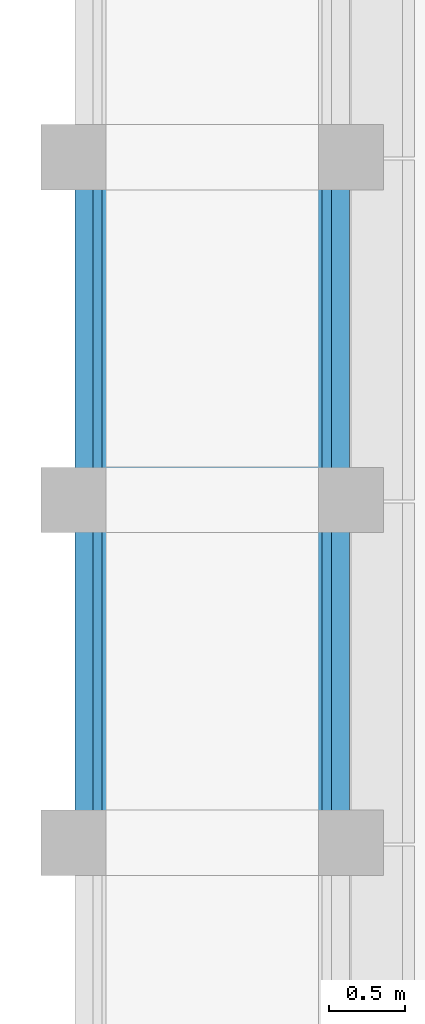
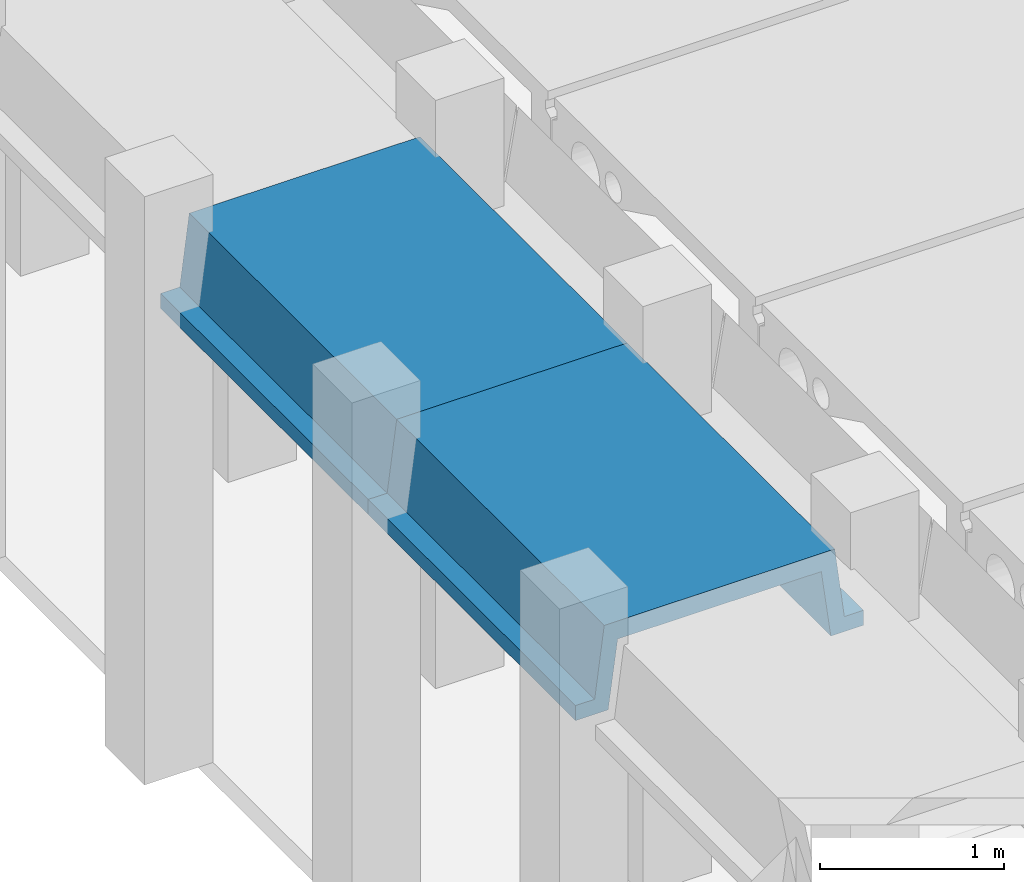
# One storey, part 11 of 21: 2 beams.
"""IFC2X3 building model written with IfcOpenShell, lengths in millimetres."""

from ifc_helpers import new_model, entity, si_unit, converted_unit, derived_unit, direction, frame, origin, place, context, subcontext, project, spatial, polyline, outline, extrude, material, type_object, element, save


model = new_model("IFC2X3")

# Units and contexts
model_context = context("Model", 3, precision=0.01, world=origin(), true_north=direction((6.12303176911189e-17, 1.0)))
body_context = subcontext(model_context, "Body", "Model", "MODEL_VIEW")
ifc_project = project(units=[si_unit("LENGTHUNIT", "METRE", prefix="MILLI"), si_unit("AREAUNIT", "SQUARE_METRE"), si_unit("VOLUMEUNIT", "CUBIC_METRE"), converted_unit("PLANEANGLEUNIT", "DEGREE", entity("IfcRatioMeasure", 0.0174532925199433), si_unit("PLANEANGLEUNIT", "RADIAN"), dimensions=[0, 0, 0, 0, 0, 0, 0]), si_unit("MASSUNIT", "GRAM", prefix="KILO"), derived_unit("MASSDENSITYUNIT", [(si_unit("MASSUNIT", "GRAM", prefix="KILO"), 1), (si_unit("LENGTHUNIT", "METRE"), -3)]), derived_unit("MOMENTOFINERTIAUNIT", [(si_unit("LENGTHUNIT", "METRE"), 4)]), si_unit("TIMEUNIT", "SECOND"), si_unit("FREQUENCYUNIT", "HERTZ"), si_unit("THERMODYNAMICTEMPERATUREUNIT", "DEGREE_CELSIUS"), derived_unit("THERMALTRANSMITTANCEUNIT", [(si_unit("MASSUNIT", "GRAM", prefix="KILO"), 1), (si_unit("THERMODYNAMICTEMPERATUREUNIT", "KELVIN"), -1), (si_unit("TIMEUNIT", "SECOND"), -3)]), derived_unit("VOLUMETRICFLOWRATEUNIT", [(si_unit("LENGTHUNIT", "METRE"), 3), (si_unit("TIMEUNIT", "SECOND"), -1)]), si_unit("ELECTRICCURRENTUNIT", "AMPERE"), si_unit("ELECTRICVOLTAGEUNIT", "VOLT"), si_unit("POWERUNIT", "WATT"), si_unit("FORCEUNIT", "NEWTON", prefix="KILO"), si_unit("ILLUMINANCEUNIT", "LUX"), si_unit("LUMINOUSFLUXUNIT", "LUMEN"), si_unit("LUMINOUSINTENSITYUNIT", "CANDELA"), derived_unit("USERDEFINED", [(si_unit("MASSUNIT", "GRAM", prefix="KILO"), -1), (si_unit("LENGTHUNIT", "METRE"), -2), (si_unit("TIMEUNIT", "SECOND"), 3), (si_unit("LUMINOUSFLUXUNIT", "LUMEN"), 1)]), derived_unit("LINEARVELOCITYUNIT", [(si_unit("LENGTHUNIT", "METRE"), 1), (si_unit("TIMEUNIT", "SECOND"), -1)]), si_unit("PRESSUREUNIT", "PASCAL"), derived_unit("USERDEFINED", [(si_unit("LENGTHUNIT", "METRE"), -2), (si_unit("MASSUNIT", "GRAM", prefix="KILO"), 1), (si_unit("TIMEUNIT", "SECOND"), -2)]), derived_unit("LINEARFORCEUNIT", [(si_unit("MASSUNIT", "GRAM", prefix="KILO"), 1), (si_unit("LENGTHUNIT", "METRE"), 1), (si_unit("TIMEUNIT", "SECOND"), -2), (si_unit("LENGTHUNIT", "METRE"), -1)]), derived_unit("PLANARFORCEUNIT", [(si_unit("MASSUNIT", "GRAM", prefix="KILO"), 1), (si_unit("LENGTHUNIT", "METRE"), 1), (si_unit("TIMEUNIT", "SECOND"), -2), (si_unit("LENGTHUNIT", "METRE"), -2)])], contexts=[model_context])

# Site, building, storey
site_placement = place(None, frame((10627.5135316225, 21939.0796949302, 0.0)))
site = spatial("IfcSite", under=ifc_project, at=site_placement, Name="Default", CompositionType="ELEMENT")
building_placement = place(site_placement, origin())
building = spatial("IfcBuilding", under=site, at=building_placement, CompositionType="ELEMENT")
storey_placement = place(building_placement, frame((0.0, 0.0, 7320.0)))
storey = spatial("IfcBuildingStorey", under=building, at=storey_placement, Name="R+2", CompositionType="ELEMENT", Elevation=7320.0)

# Beams
ifc_material = material(Name="Concrete, Precast Smooth, Light Grey")
beam_type = type_object("IfcBeamType", Name="Poutre petite:Poutre petite", PredefinedType="NOTDEFINED")
beam_1_placement = place(storey_placement, frame((29897.4864683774, 660.920305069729, 3530.0), z_axis=(0.0, 0.0, 1.0), x_axis=(0.0, 1.0, 0.0)))
element("IfcBeam", 1, at=beam_1_placement, inside=storey, type_object=beam_type, material=ifc_material, Name="Poutre petite:Poutre petite", ObjectType="Poutre petite:Poutre petite", context=body_context, shape_type="SweptSolid", body=[
    extrude(outline(polyline([(103.333217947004, -905.014058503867), (203.333564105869, -905.014058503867), (203.333564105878, -700.013543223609), (-246.666782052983, -640.013497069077), (-246.666782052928, 640.013684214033), (203.333564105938, 700.013730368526), (203.333564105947, 905.01368421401), (103.333217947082, 905.013684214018), (103.333217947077, 785.013684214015), (-366.666782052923, 725.013684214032), (-366.666782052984, -725.01349706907), (103.333217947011, -785.013497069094), (103.333217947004, -905.014058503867)])), frame((0.0, 0.000187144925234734, -366.666782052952), z_axis=(1.0, 0.0, 0.0), x_axis=(0.0, 0.0, -1.0)), (0.0, 0.0, 1.0), 2260.0),
])
beam_2_placement = place(storey_placement, frame((29897.4864683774, -1599.07969493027, 3530.0), z_axis=(0.0, 0.0, 1.0), x_axis=(0.0, 1.0, 0.0)))
element("IfcBeam", 2, at=beam_2_placement, inside=storey, type_object=beam_type, material=ifc_material, Name="Poutre petite:Poutre petite", ObjectType="Poutre petite:Poutre petite", context=body_context, shape_type="SweptSolid", body=[
    extrude(outline(polyline([(103.333217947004, -905.014058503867), (203.333564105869, -905.014058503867), (203.333564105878, -700.013543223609), (-246.666782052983, -640.013497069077), (-246.666782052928, 640.013684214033), (203.333564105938, 700.013730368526), (203.333564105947, 905.01368421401), (103.333217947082, 905.013684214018), (103.333217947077, 785.013684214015), (-366.666782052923, 725.013684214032), (-366.666782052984, -725.01349706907), (103.333217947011, -785.013497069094), (103.333217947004, -905.014058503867)])), frame((0.0, 0.000187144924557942, -366.666782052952), z_axis=(1.0, 0.0, 0.0), x_axis=(0.0, 0.0, -1.0)), (0.0, 0.0, 1.0), 2260.0),
])

save(model, "model.ifc")
